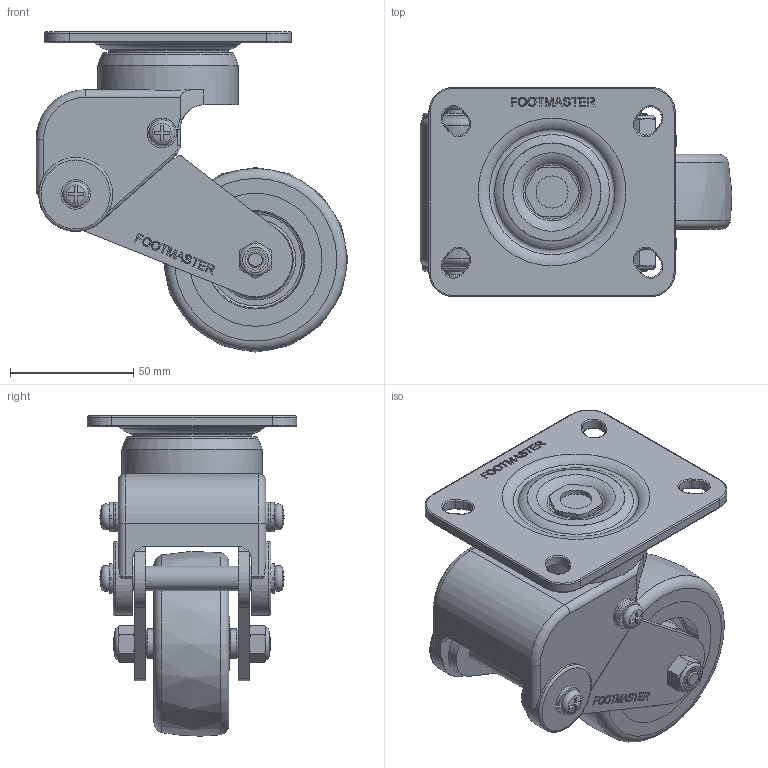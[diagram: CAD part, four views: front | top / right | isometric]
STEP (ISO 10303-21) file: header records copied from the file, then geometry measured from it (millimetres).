
FILE_DESCRIPTION(/* description */ (''),/* implementation_level */ '2;1');
FILE_NAME(/* name */ 'D:/GDS-75-ASF-PEU v2.step',/* time_stamp */ '2019-05-01T10:48:37+09:00',/* author */ ('hoya0806@gdok.co.kr'),/* organization */ (''),/* preprocessor_version */ 'ST-DEVELOPER v18',/* originating_system */ 'Autodesk Translation Framework v8.2.0.1029',/* authorisation */ '');
FILE_SCHEMA (('AUTOMOTIVE_DESIGN { 1 0 10303 214 3 1 1 }'));
Length unit declared in the file: millimetre
Products named in the file (12): GDS-75-ASF-PEU; S10020; Wheel; Component5; Component6; Leg; Inner Washer; 95003A102; Nylon Nut M8 v1; 94645A210; Nylon Nut M8 v1 (1); 94645A210 (1)
Assembly tree (13 placements, depth 3):
  GDS-75-ASF-PEU
    S10020
    Leg  x2
    Inner Washer  x2
    Wheel
      Component5
      Component6
    95003A102
    Nylon Nut M8 v1
      94645A210
    Nylon Nut M8 v1 (1)
      94645A210 (1)
Bounding box: 126.44 x 85 x 129.99 mm (x, y, z)
Volume: 297549.6 mm3; surface area: 92334.8 mm2
Topology: 13 solids, 15 shells, 1008 faces, 2674 edges, 1755 vertices
Faces by surface type: plane 464, bspline 288, cylinder 148, torus 63, cone 45
Full cylindrical faces by diameter (mm): 6 x6, 6.376 x12, 6.684 x2, 8 x8, 8.2 x2, 8.355 x2, 10 x1, 10.1 x2, 10.2 x2, 12 x4, 13 x1, 22 x2, 30 x2, 48.676 x1, 54 x2, 57 x1
Entity records: 31635 total; most frequent: CARTESIAN_POINT 12910, ORIENTED_EDGE 4166, DIRECTION 3272, EDGE_CURVE 2083, VERTEX_POINT 1363, AXIS2_PLACEMENT_3D 1103, LINE 1066, VECTOR 1066
